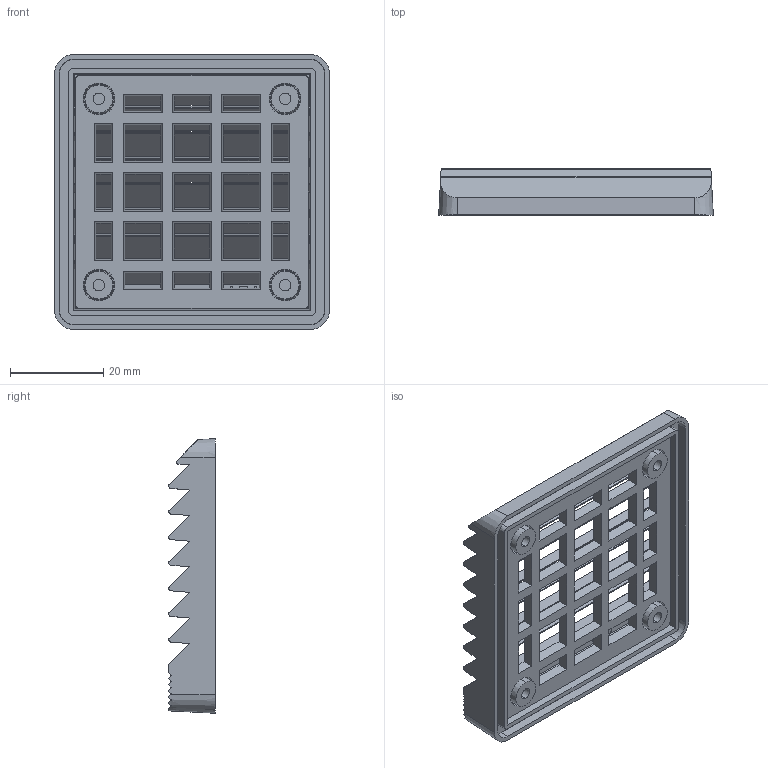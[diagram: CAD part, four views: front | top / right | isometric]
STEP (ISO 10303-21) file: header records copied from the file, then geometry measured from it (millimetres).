
FILE_DESCRIPTION (( 'STEP AP203' ), '1' );
FILE_NAME ('A-312.STEP', '2025-11-11T07:01:27', ( '' ), ( '' ), 'SwSTEP 2.0', 'SolidWorks 2021', '' );
FILE_SCHEMA (( 'CONFIG_CONTROL_DESIGN' ));
Length unit declared in the file: millimetre
Products named in the file (1): A-312
Bounding box: 59 x 10 x 59 mm (x, y, z)
Volume: 16203.8 mm3; surface area: 19131.7 mm2
Topology: 2 solids, 2 shells, 363 faces, 1033 edges, 680 vertices
Faces by surface type: plane 247, bspline 53, cone 36, cylinder 27
Entity records: 13122 total; most frequent: CARTESIAN_POINT 3952, ORIENTED_EDGE 2066, DIRECTION 1573, EDGE_CURVE 1033, VECTOR 771, LINE 771, VERTEX_POINT 680, EDGE_LOOP 433
